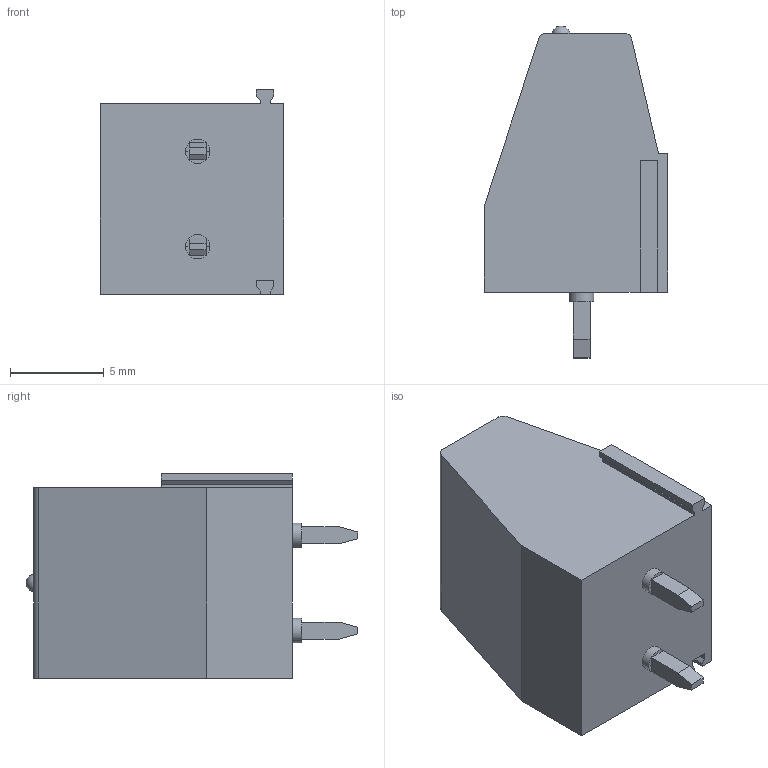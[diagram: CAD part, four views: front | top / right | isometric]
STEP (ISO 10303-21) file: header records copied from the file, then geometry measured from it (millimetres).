
FILE_DESCRIPTION(/* description */ (''),/* implementation_level */ '2;1');
FILE_NAME(/* name */ 'C:/Users/Morit/Downloads/13989 v1.step',/* time_stamp */ '2019-09-23T17:17:51+02:00',/* author */ (''),/* organization */ (''),/* preprocessor_version */ 'ST-DEVELOPER v18',/* originating_system */ 'Autodesk Translation Framework v8.6.0.1094',/* authorisation */ '');
FILE_SCHEMA (('AUTOMOTIVE_DESIGN { 1 0 10303 214 3 1 1 }'));
Length unit declared in the file: millimetre
Products named in the file (1): 13989
Bounding box: 9.8 x 17.7 x 10.9 mm (x, y, z)
Volume: 1080.2 mm3; surface area: 854.7 mm2
Topology: 1 solids, 1 shells, 98 faces, 243 edges, 156 vertices
Faces by surface type: plane 89, cylinder 8, sphere 1
Full cylindrical faces by diameter (mm): 1.3 x2, 3.783 x2, 4 x2
Entity records: 3017 total; most frequent: CARTESIAN_POINT 498, ORIENTED_EDGE 486, DIRECTION 483, EDGE_CURVE 243, LINE 201, VECTOR 201, VERTEX_POINT 156, AXIS2_PLACEMENT_3D 141
